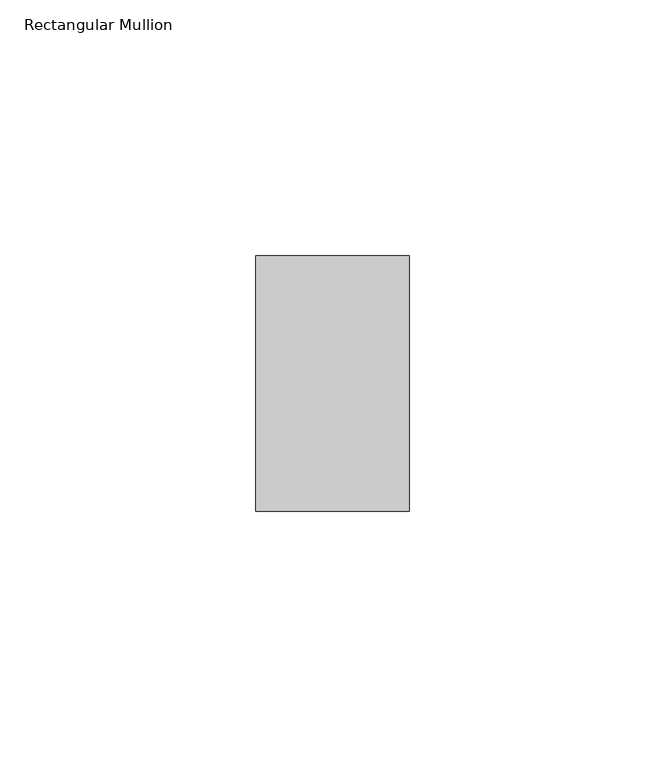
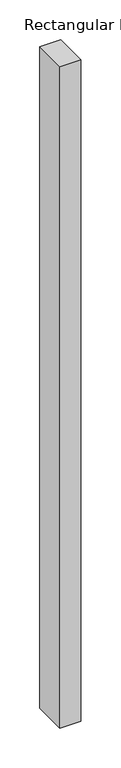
"""IFC4 building model written with IfcOpenShell, lengths in millimetres: member geometry, Rectangular Mullion : ARQ_TV_MULL_50x30mm."""

from ifc_helpers import new_model, si_unit, frame, origin, place, context, project, spatial, polyline, outline, extrude, source, transform, mapped, element, save


def rectangular_mullion_e1952a32(model_context):
    return source(origin(), model_context, "Body", "SweptSolid", [
        extrude(outline(polyline([(0.0, 25.0), (0.0, -25.0), (-30.0, -25.0), (-30.0, 25.0), (0.0, 25.0)])), frame((0.0, 0.0, -1009.7664683), z_axis=(0.0, 0.0, 1.0), x_axis=(1.0, 0.0, 0.0)), (0.0, 0.0, 1.0), 1009.7664683),
    ])


if __name__ == "__main__":
    model = new_model("IFC4")
    model_context = context("Model", 3, world=origin())
    ifc_project = project(units=[si_unit("LENGTHUNIT", "METRE", prefix="MILLI")], contexts=[model_context])
    site = spatial("IfcSite", under=ifc_project)
    building = spatial("IfcBuilding", under=site)
    placement = place(None, origin())
    rectangular_mullion_shape = rectangular_mullion_e1952a32(model_context)
    element("IfcMember", 1, ObjectType="Rectangular Mullion : ARQ_TV_MULL_50x30mm", at=placement, inside=building, context=model_context, shape_type="MappedRepresentation", body=[
        mapped(rectangular_mullion_shape, transform((0.0, 0.0, 0.0), x_axis=(1.0, 0.0, 0.0), y_axis=(0.0, 1.0, 0.0), z_axis=(0.0, 0.0, 1.0))),
    ])
    save(model, "model.ifc")
